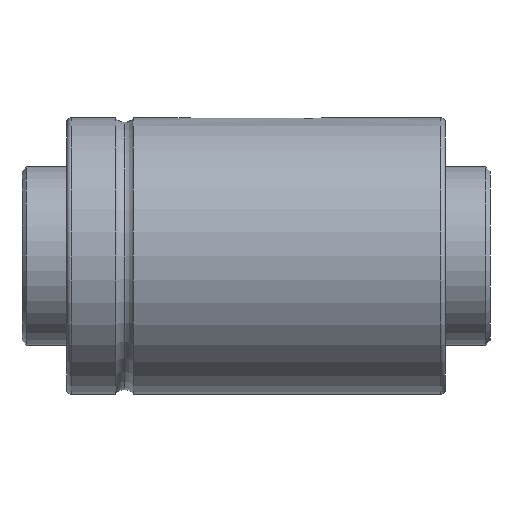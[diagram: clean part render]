
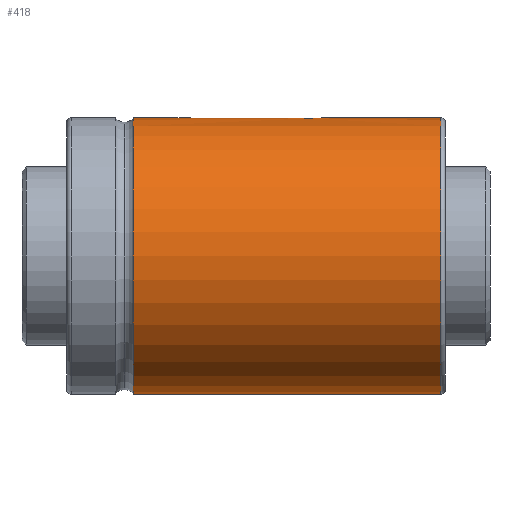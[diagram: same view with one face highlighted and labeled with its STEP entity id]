
A CAD part, front view. The second image highlights one B-rep face of the part: STEP entity #418.
In plain terms, the highlighted cylindrical face has radius 31 mm (diameter 62 mm), a partial arc.
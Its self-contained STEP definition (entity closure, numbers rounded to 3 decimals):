
#88 = DIRECTION ( 'NONE',  ( -1., 0., 0. ) ) ;
#217 = CARTESIAN_POINT ( 'NONE',  ( 57.372, -0.806, 30.99 ) ) ;
#245 = CARTESIAN_POINT ( 'NONE',  ( 30., -2.5, 30.899 ) ) ;
#262 = CARTESIAN_POINT ( 'NONE',  ( 55., -2.5, 30.899 ) ) ;
#282 = CARTESIAN_POINT ( 'NONE',  ( 27.5, 0., 31. ) ) ;
#394 = DIRECTION ( 'NONE',  ( 0., 0., 1. ) ) ;
#405 = VECTOR ( 'NONE', #506, 1000. ) ;
#418 = ADVANCED_FACE ( 'NONE', ( #2871 ), #2911, .T. ) ;
#473 = CARTESIAN_POINT ( 'NONE',  ( 56.884, -1.652, 30.956 ) ) ;
#498 = DIRECTION ( 'NONE',  ( -1., 0., 0. ) ) ;
#506 = DIRECTION ( 'NONE',  ( -1., 0., 0. ) ) ;
#512 = CARTESIAN_POINT ( 'NONE',  ( 85., 0., 31. ) ) ;
#514 = VERTEX_POINT ( 'NONE', #3162 ) ;
#522 = CARTESIAN_POINT ( 'NONE',  ( 28.118, -1.653, 30.956 ) ) ;
#538 = VERTEX_POINT ( 'NONE', #2080 ) ;
#554 = CARTESIAN_POINT ( 'NONE',  ( 28.014, -1.528, 30.963 ) ) ;
#595 = CARTESIAN_POINT ( 'NONE',  ( 84., 0., 31. ) ) ;
#710 = CARTESIAN_POINT ( 'NONE',  ( 55.658, -2.434, 30.905 ) ) ;
#717 = AXIS2_PLACEMENT_3D ( 'NONE', #721, #1009, #1796 ) ;
#721 = CARTESIAN_POINT ( 'NONE',  ( 85., 0., 0. ) ) ;
#725 = CARTESIAN_POINT ( 'NONE',  ( 84., 0., -31. ) ) ;
#752 = CIRCLE ( 'NONE', #2684, 31. ) ;
#759 = CARTESIAN_POINT ( 'NONE',  ( 28.892, -2.247, 30.919 ) ) ;
#786 = LINE ( 'NONE', #512, #3032 ) ;
#885 = EDGE_CURVE ( 'NONE', #1824, #895, #915, .T. ) ;
#895 = VERTEX_POINT ( 'NONE', #2064 ) ;
#915 = LINE ( 'NONE', #2575, #2907 ) ;
#956 = CARTESIAN_POINT ( 'NONE',  ( 57.247, -1.108, 30.981 ) ) ;
#1009 = DIRECTION ( 'NONE',  ( -1., 0., 0. ) ) ;
#1096 = EDGE_LOOP ( 'NONE', ( #2527, #2287, #3140, #2780, #1750, #1952, #2600, #2576 ) ) ;
#1192 = CARTESIAN_POINT ( 'NONE',  ( 15., 0., 0. ) ) ;
#1257 = CARTESIAN_POINT ( 'NONE',  ( 57.17, -1.252, 30.975 ) ) ;
#1283 = CARTESIAN_POINT ( 'NONE',  ( 28.477, -1.989, 30.936 ) ) ;
#1315 = CARTESIAN_POINT ( 'NONE',  ( 27.754, -1.109, 30.981 ) ) ;
#1330 = DIRECTION ( 'NONE',  ( -1., 0., 0. ) ) ;
#1352 = VERTEX_POINT ( 'NONE', #1990 ) ;
#1425 = DIRECTION ( 'NONE',  ( 1., 0., 0. ) ) ;
#1472 = CARTESIAN_POINT ( 'NONE',  ( 56.989, -1.523, 30.963 ) ) ;
#1509 = CARTESIAN_POINT ( 'NONE',  ( 55.33, -2.5, 30.899 ) ) ;
#1522 = EDGE_CURVE ( 'NONE', #2150, #1352, #2586, .T. ) ;
#1569 = CARTESIAN_POINT ( 'NONE',  ( 27.5, -0.33, 31. ) ) ;
#1693 = EDGE_CURVE ( 'NONE', #2401, #538, #2301, .T. ) ;
#1748 = CARTESIAN_POINT ( 'NONE',  ( 57.42, -0.647, 30.994 ) ) ;
#1750 = ORIENTED_EDGE ( 'NONE', *, *, #885, .T. ) ;
#1757 = EDGE_CURVE ( 'NONE', #2150, #2401, #3083, .T. ) ;
#1781 = CARTESIAN_POINT ( 'NONE',  ( 57.5, -0.165, 31. ) ) ;
#1796 = DIRECTION ( 'NONE',  ( 0., 0., 1. ) ) ;
#1824 = VERTEX_POINT ( 'NONE', #262 ) ;
#1952 = ORIENTED_EDGE ( 'NONE', *, *, #2212, .T. ) ;
#1990 = CARTESIAN_POINT ( 'NONE',  ( 15., 0., -31. ) ) ;
#2000 = CARTESIAN_POINT ( 'NONE',  ( 56.653, -1.882, 30.943 ) ) ;
#2052 = DIRECTION ( 'NONE',  ( -1., 0., 0. ) ) ;
#2053 = CARTESIAN_POINT ( 'NONE',  ( 85., 0., 31. ) ) ;
#2064 = CARTESIAN_POINT ( 'NONE',  ( 30., -2.5, 30.899 ) ) ;
#2071 = CARTESIAN_POINT ( 'NONE',  ( 29.672, -2.484, 30.9 ) ) ;
#2080 = CARTESIAN_POINT ( 'NONE',  ( 57.5, 0., 31. ) ) ;
#2086 = DIRECTION ( 'NONE',  ( 0., 0., -1. ) ) ;
#2150 = VERTEX_POINT ( 'NONE', #725 ) ;
#2161 = EDGE_CURVE ( 'NONE', #514, #3145, #786, .T. ) ;
#2212 = EDGE_CURVE ( 'NONE', #895, #514, #2244, .T. ) ;
#2244 = B_SPLINE_CURVE_WITH_KNOTS ( 'NONE', 3,
 ( #245, #2834, #2071, #2314, #3122, #759, #2839, #1283, #3110, #522, #554, #2878, #1315, #2620, #1569, #282 ),
 .UNSPECIFIED., .F., .F.,
 ( 4, 2, 2, 2, 2, 2, 2, 4 ),
 ( -0.004, -0.003, -0.003, -0.002, -0.002, -0.001, -0.001, 0. ),
 .UNSPECIFIED. ) ;
#2258 = CARTESIAN_POINT ( 'NONE',  ( 56.109, -2.246, 30.919 ) ) ;
#2269 = CARTESIAN_POINT ( 'NONE',  ( 56.255, -2.169, 30.924 ) ) ;
#2287 = ORIENTED_EDGE ( 'NONE', *, *, #1757, .T. ) ;
#2301 = LINE ( 'NONE', #2053, #405 ) ;
#2314 = CARTESIAN_POINT ( 'NONE',  ( 29.353, -2.42, 30.905 ) ) ;
#2401 = VERTEX_POINT ( 'NONE', #595 ) ;
#2448 = B_SPLINE_CURVE_WITH_KNOTS ( 'NONE', 3,
 ( #2771, #1781, #2555, #1748, #217, #956, #1257, #1472, #473, #2000, #2531, #2269, #2258, #710, #1509, #3084 ),
 .UNSPECIFIED., .F., .F.,
 ( 4, 2, 2, 2, 2, 2, 2, 4 ),
 ( 0.004, 0.004, 0.005, 0.005, 0.006, 0.006, 0.007, 0.008 ),
 .UNSPECIFIED. ) ;
#2527 = ORIENTED_EDGE ( 'NONE', *, *, #1522, .F. ) ;
#2531 = CARTESIAN_POINT ( 'NONE',  ( 56.528, -1.986, 30.936 ) ) ;
#2555 = CARTESIAN_POINT ( 'NONE',  ( 57.484, -0.328, 30.999 ) ) ;
#2575 = CARTESIAN_POINT ( 'NONE',  ( 85., -2.5, 30.899 ) ) ;
#2576 = ORIENTED_EDGE ( 'NONE', *, *, #2908, .T. ) ;
#2585 = CARTESIAN_POINT ( 'NONE',  ( 84., 0., 0. ) ) ;
#2586 = LINE ( 'NONE', #2926, #2750 ) ;
#2600 = ORIENTED_EDGE ( 'NONE', *, *, #2161, .T. ) ;
#2620 = CARTESIAN_POINT ( 'NONE',  ( 27.566, -0.658, 30.994 ) ) ;
#2622 = EDGE_CURVE ( 'NONE', #538, #1824, #2448, .T. ) ;
#2684 = AXIS2_PLACEMENT_3D ( 'NONE', #1192, #1425, #394 ) ;
#2750 = VECTOR ( 'NONE', #88, 1000. ) ;
#2771 = CARTESIAN_POINT ( 'NONE',  ( 57.5, 0., 31. ) ) ;
#2773 = AXIS2_PLACEMENT_3D ( 'NONE', #2585, #1330, #2086 ) ;
#2780 = ORIENTED_EDGE ( 'NONE', *, *, #2622, .T. ) ;
#2834 = CARTESIAN_POINT ( 'NONE',  ( 29.835, -2.5, 30.899 ) ) ;
#2839 = CARTESIAN_POINT ( 'NONE',  ( 28.748, -2.17, 30.924 ) ) ;
#2871 = FACE_OUTER_BOUND ( 'NONE', #1096, .T. ) ;
#2878 = CARTESIAN_POINT ( 'NONE',  ( 27.831, -1.255, 30.975 ) ) ;
#2907 = VECTOR ( 'NONE', #2052, 1000. ) ;
#2908 = EDGE_CURVE ( 'NONE', #3145, #1352, #752, .T. ) ;
#2911 = CYLINDRICAL_SURFACE ( 'NONE', #717, 31. ) ;
#2926 = CARTESIAN_POINT ( 'NONE',  ( 85., 0., -31. ) ) ;
#3032 = VECTOR ( 'NONE', #498, 1000. ) ;
#3083 = CIRCLE ( 'NONE', #2773, 31. ) ;
#3084 = CARTESIAN_POINT ( 'NONE',  ( 55., -2.5, 30.899 ) ) ;
#3110 = CARTESIAN_POINT ( 'NONE',  ( 28.348, -1.884, 30.943 ) ) ;
#3122 = CARTESIAN_POINT ( 'NONE',  ( 29.194, -2.372, 30.909 ) ) ;
#3140 = ORIENTED_EDGE ( 'NONE', *, *, #1693, .T. ) ;
#3145 = VERTEX_POINT ( 'NONE', #3147 ) ;
#3147 = CARTESIAN_POINT ( 'NONE',  ( 15., 0., 31. ) ) ;
#3162 = CARTESIAN_POINT ( 'NONE',  ( 27.5, 0., 31. ) ) ;
